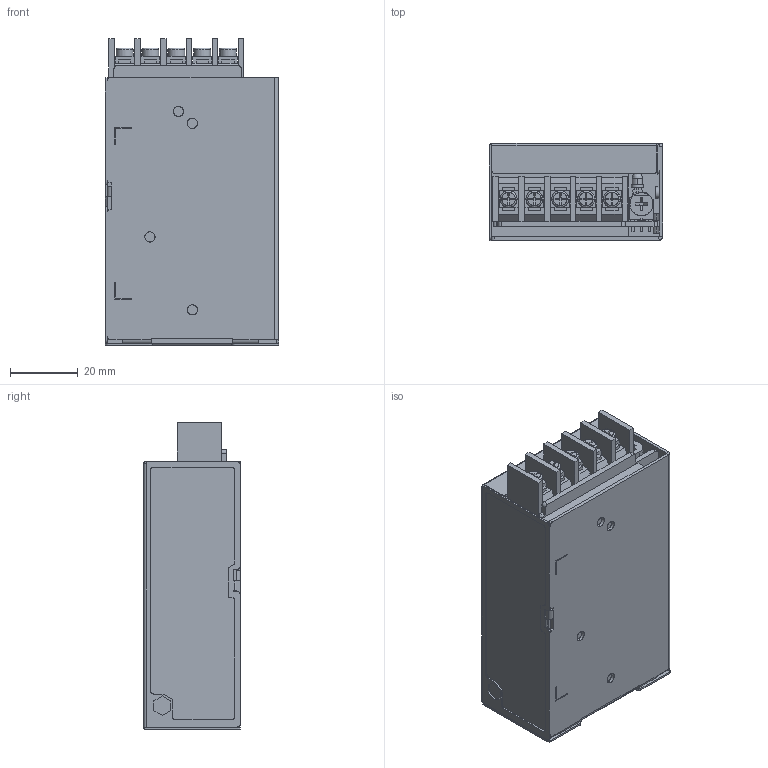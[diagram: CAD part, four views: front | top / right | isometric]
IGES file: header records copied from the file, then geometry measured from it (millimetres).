
Start section: SolidWorks IGES file using analytic representation for surfaces
Global section: file name: S:\PRODUCT\LOCAL STANDARD\LS-SERIES\STD MODEL\LS25\OUTLINE\OUTLINE 3D\3D\MASS PRO\IGES\LS25 OUTLINE.IGS; native system: SolidWorks 2008; preprocessor: SolidWorks 2008; author: dmacias; date: 090224.191438; units: millimetre
Bounding box: 51 x 28.5 x 90.5 mm (x, y, z)
Surface area: 19810.2 mm2 (no closed solid volume)
Topology: 0 solids, 0 shells, 615 faces, 5101 edges, 5099 vertices
Faces by surface type: bspline 498, revolution 117
